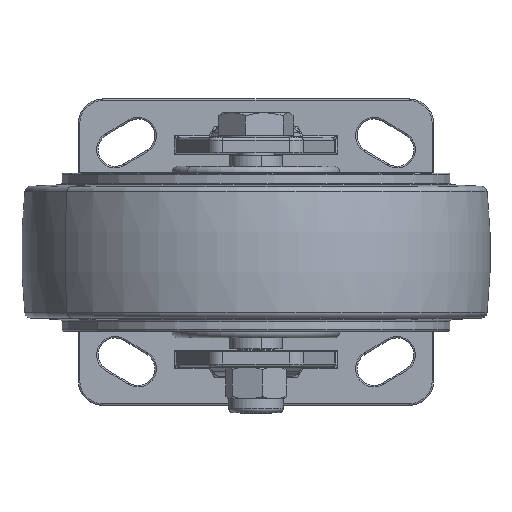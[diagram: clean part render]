
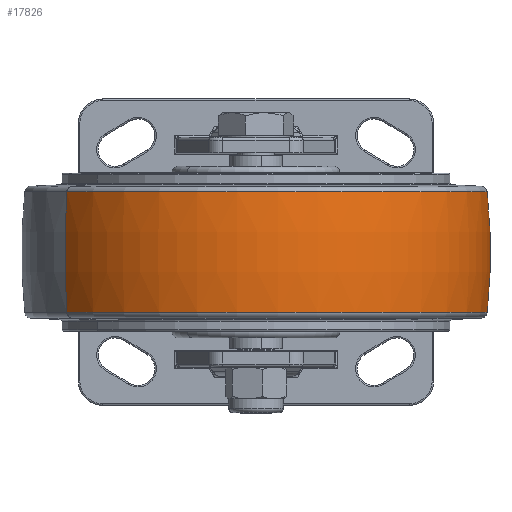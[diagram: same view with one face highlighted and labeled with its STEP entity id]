
A CAD part, front view. The second image highlights one B-rep face of the part: STEP entity #17826.
In plain terms, the highlighted toroidal (fillet/blend) face has major radius 174.955 mm and minor radius 251.415 mm.
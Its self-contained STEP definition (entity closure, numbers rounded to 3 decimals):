
#1089 = VERTEX_POINT ( 'NONE', #25734 ) ;
#2325 = EDGE_CURVE ( 'NONE', #25155, #34565, #10864, .T. ) ;
#2617 = CARTESIAN_POINT ( 'NONE',  ( -75.691, 0., -19.659 ) ) ;
#3044 = DIRECTION ( 'NONE',  ( 0., -1., 0. ) ) ;
#5331 = AXIS2_PLACEMENT_3D ( 'NONE', #31310, #31088, #20425 ) ;
#6037 = DIRECTION ( 'NONE',  ( 1., 0., 0. ) ) ;
#6066 = CARTESIAN_POINT ( 'NONE',  ( 0., 0., 19.659 ) ) ;
#6488 = ORIENTED_EDGE ( 'NONE', *, *, #25370, .T. ) ;
#7622 = TOROIDAL_SURFACE ( 'NONE', #5331, -174.955, 251.415 ) ;
#7692 = VERTEX_POINT ( 'NONE', #2617 ) ;
#8369 = CARTESIAN_POINT ( 'NONE',  ( 174.955, 0., 0. ) ) ;
#8741 = DIRECTION ( 'NONE',  ( 1., 0., 0. ) ) ;
#9480 = CIRCLE ( 'NONE', #12766, 251.415 ) ;
#9685 = CIRCLE ( 'NONE', #22541, 75.691 ) ;
#10864 = CIRCLE ( 'NONE', #28754, 251.415 ) ;
#10980 = ORIENTED_EDGE ( 'NONE', *, *, #2325, .F. ) ;
#11353 = EDGE_CURVE ( 'NONE', #7692, #1089, #9480, .T. ) ;
#12766 = AXIS2_PLACEMENT_3D ( 'NONE', #8369, #27168, #15978 ) ;
#12814 = CARTESIAN_POINT ( 'NONE',  ( 75.691, 0., -19.659 ) ) ;
#15530 = AXIS2_PLACEMENT_3D ( 'NONE', #27275, #32488, #6037 ) ;
#15978 = DIRECTION ( 'NONE',  ( -1., 0., 0. ) ) ;
#17826 = ADVANCED_FACE ( 'NONE', ( #30686 ), #7622, .T. ) ;
#20425 = DIRECTION ( 'NONE',  ( 1., 0., 0. ) ) ;
#22541 = AXIS2_PLACEMENT_3D ( 'NONE', #6066, #24841, #8741 ) ;
#24841 = DIRECTION ( 'NONE',  ( 0., 0., 1. ) ) ;
#25155 = VERTEX_POINT ( 'NONE', #12814 ) ;
#25370 = EDGE_CURVE ( 'NONE', #25155, #7692, #28710, .T. ) ;
#25734 = CARTESIAN_POINT ( 'NONE',  ( -75.691, 0., 19.659 ) ) ;
#26753 = EDGE_CURVE ( 'NONE', #34565, #1089, #9685, .T. ) ;
#27168 = DIRECTION ( 'NONE',  ( 0., 1., 0. ) ) ;
#27181 = DIRECTION ( 'NONE',  ( 0., 0., -1. ) ) ;
#27275 = CARTESIAN_POINT ( 'NONE',  ( 0., 0., -19.659 ) ) ;
#28710 = CIRCLE ( 'NONE', #15530, 75.691 ) ;
#28754 = AXIS2_PLACEMENT_3D ( 'NONE', #32390, #3044, #27181 ) ;
#29954 = ORIENTED_EDGE ( 'NONE', *, *, #26753, .F. ) ;
#30686 = FACE_OUTER_BOUND ( 'NONE', #31095, .T. ) ;
#30914 = ORIENTED_EDGE ( 'NONE', *, *, #11353, .T. ) ;
#31088 = DIRECTION ( 'NONE',  ( 0., 0., 1. ) ) ;
#31095 = EDGE_LOOP ( 'NONE', ( #6488, #30914, #29954, #10980 ) ) ;
#31310 = CARTESIAN_POINT ( 'NONE',  ( 0., 0., 0. ) ) ;
#32390 = CARTESIAN_POINT ( 'NONE',  ( -174.955, 0., 0. ) ) ;
#32488 = DIRECTION ( 'NONE',  ( 0., 0., 1. ) ) ;
#34116 = CARTESIAN_POINT ( 'NONE',  ( 75.691, 0., 19.659 ) ) ;
#34565 = VERTEX_POINT ( 'NONE', #34116 ) ;
